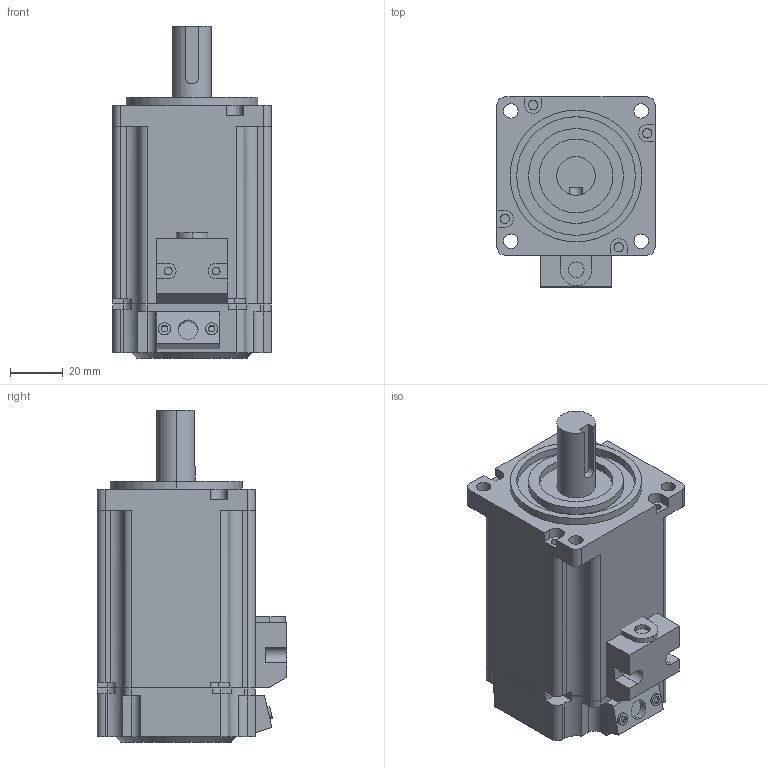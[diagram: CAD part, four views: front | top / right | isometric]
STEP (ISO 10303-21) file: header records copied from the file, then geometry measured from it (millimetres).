
FILE_DESCRIPTION (( 'STEP AP214' ), '1' );
FILE_NAME ('RSMA-M06J1330A.STEP', '2021-08-18T03:27:30', ( '微软用户' ), ( '微软中国' ), 'SwSTEP 2.0', 'SolidWorks 2020', '' );
FILE_SCHEMA (( 'AUTOMOTIVE_DESIGN' ));
Length unit declared in the file: millimetre
Products named in the file (4): 綴欶RSMA-M08J2430A(750W); RSMA-M06J1330A; 綴裔
Assembly tree (3 placements, depth 2):
  RSMA-M06J1330A
    綴裔
    綴欶RSMA-M08J2430A(750W)
    RSMA-M06J1330A
Bounding box: 60 x 72 x 126 mm (x, y, z)
Volume: 316377.3 mm3; surface area: 45283.4 mm2
Topology: 4 solids, 4 shells, 227 faces, 616 edges, 410 vertices
Faces by surface type: plane 124, cylinder 101, cone 2
Entity records: 8450 total; most frequent: DIRECTION 1299, CARTESIAN_POINT 1290, ORIENTED_EDGE 1232, EDGE_CURVE 616, AXIS2_PLACEMENT_3D 451, VERTEX_POINT 410, VECTOR 397, LINE 397
